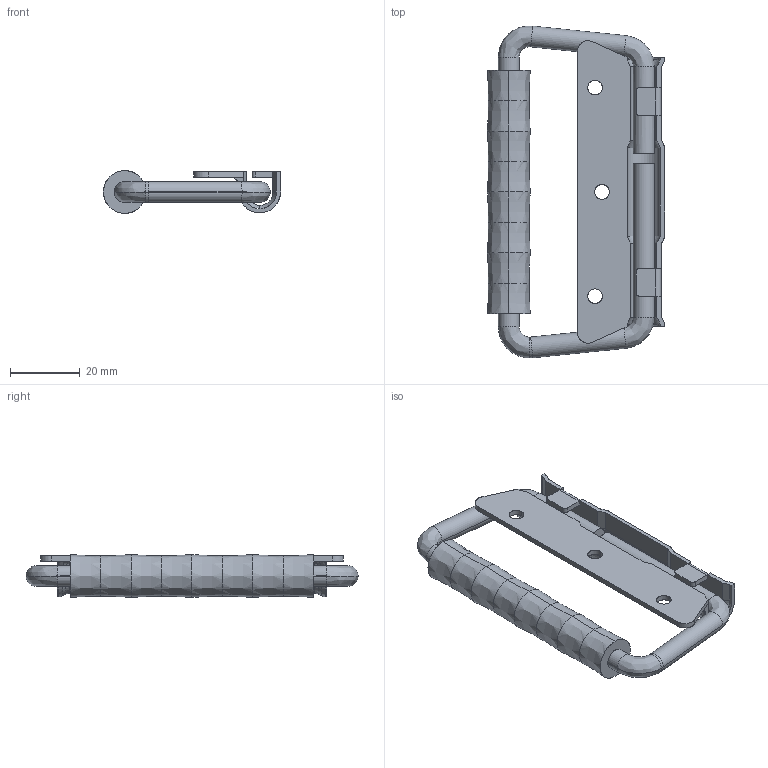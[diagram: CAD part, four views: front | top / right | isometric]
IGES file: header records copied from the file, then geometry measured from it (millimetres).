
Start section: SolidWorks IGES FILE using analytic representation for surfaces
Global section: file name: C:\Documents and Settings\lecoutey\Bureau\PR 326\PR 326.IGS; native system: SolidWorks 2004 by SolidWorks Corporation; preprocessor: Version 5.3; author: lecoutey; date: 050408.171246; units: millimetre
Bounding box: 50.95 x 95.48 x 12.3 mm (x, y, z)
Surface area: 12887.1 mm2 (no closed solid volume)
Topology: 0 solids, 0 shells, 189 faces, 1432 edges, 1428 vertices
Faces by surface type: bspline 112, revolution 77
